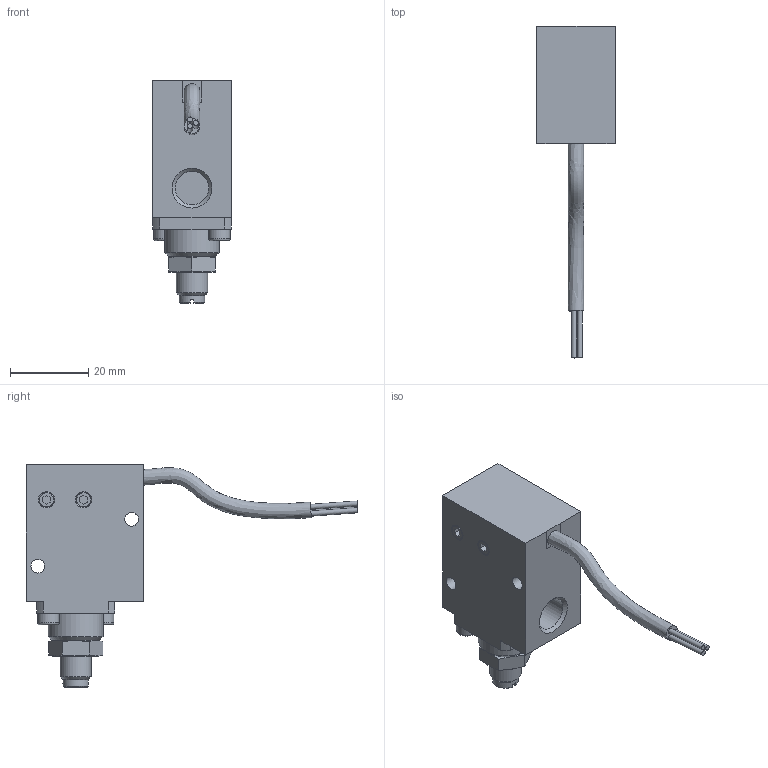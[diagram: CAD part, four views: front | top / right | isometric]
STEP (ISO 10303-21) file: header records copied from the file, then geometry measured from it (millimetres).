
FILE_DESCRIPTION(/* description */ ('VACUOSTATO ELETTROMECCANICO'),/* implementation_level */ '2;1');
FILE_NAME(/* name */ 'C:\PNX_VAULTFOLDER\Area Tecnica\Disegni\VARIE-3D\Componenti\1900 (vuoto)\19VCE_0_C1.stp',/* time_stamp */ '2019-09-13T14:41:11+02:00',/* author */ ('maniean1'),/* organization */ ('Pneumax S.p.A.'),/* preprocessor_version */ 'ST-DEVELOPER v17',/* originating_system */ 'Autodesk Inventor 2019',/* authorisation */ '');
FILE_SCHEMA (('AUTOMOTIVE_DESIGN { 1 0 10303 214 3 1 1 }'));
Length unit declared in the file: millimetre
Products named in the file (1): 19VCE.0.C1
Bounding box: 20 x 84.91 x 57 mm (x, y, z)
Volume: 23857.5 mm3; surface area: 7140.8 mm2
Topology: 1 solids, 1 shells, 110 faces, 295 edges, 202 vertices
Faces by surface type: plane 76, cylinder 16, cone 15, torus 2, bspline 1
Full cylindrical faces by diameter (mm): 1.3 x3, 3 x1, 3.5 x2, 5.5 x2, 6.5 x1, 8 x1, 8.566 x1, 14 x1
Entity records: 4132 total; most frequent: CARTESIAN_POINT 1188, ORIENTED_EDGE 588, DIRECTION 568, EDGE_CURVE 294, VERTEX_POINT 202, AXIS2_PLACEMENT_3D 198, LINE 172, VECTOR 172
